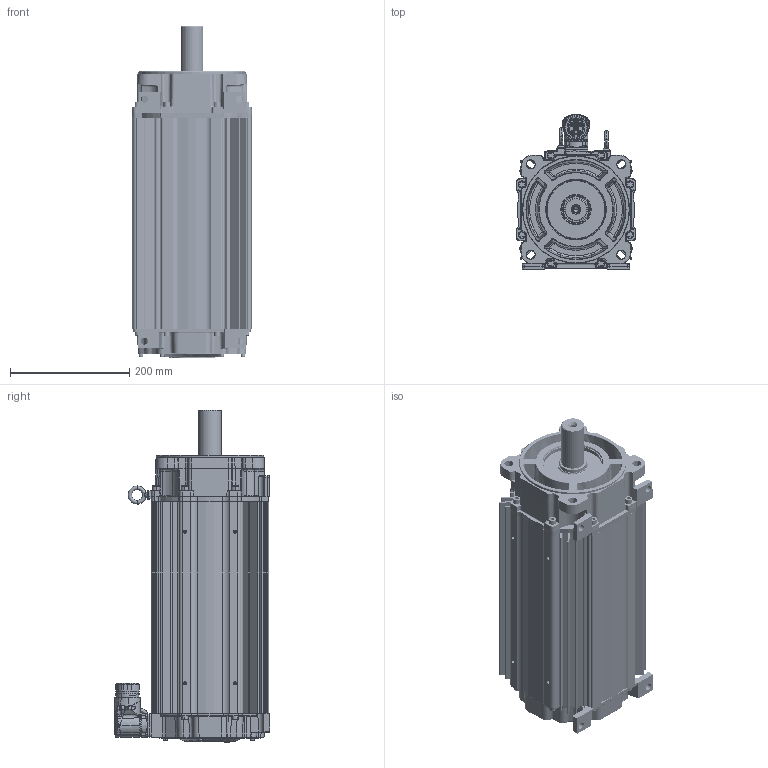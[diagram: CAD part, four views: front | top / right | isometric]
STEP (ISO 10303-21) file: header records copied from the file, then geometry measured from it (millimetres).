
FILE_DESCRIPTION((''),'2;1');
FILE_NAME('10001410891-Q_ASM','2020-01-15T13:56:42',('VThimma'),('Rockwell Automation'),'CREO PARAMETRIC BY PTC INC, 2017380','CREO PARAMETRIC BY PTC INC, 2017380','');
FILE_SCHEMA(('CONFIG_CONTROL_DESIGN','SHAPE_APPEARANCE_LAYERS_GROUPS'));
Products named in the file (22): 10001371613; 10001238886_AF0; 10001298482_AF22; 10001284445_ASM; CH31X150; 10001406659_ASM; 10001336772_KEYLESS; 10001398824_ASM; 10001257630_AF307; 10001300098_AF279; 10001314835_ASM; 10001586886; 10000172464; 0002-5005; 10000801000; 10000801001; 10000801002_ASM; 221404-Q12; 10000569218; 10001290343; 10001609981; 10001410891-Q_ASM
Assembly tree (45 placements, depth 4):
  10001410891-Q_ASM
    10001406659_ASM
      10001371613
      10001284445_ASM
        10001238886_AF0
        10001298482_AF22
      CH31X150  x8
    10001398824_ASM
      10001336772_KEYLESS
    10001314835_ASM
      10001257630_AF307
      10001300098_AF279
    10001586886  x8
    10000172464
    0002-5005  x2
    10000801002_ASM
      10000801000
      10000801001
    221404-Q12  x10
    10000569218
    10001290343
    10001609981
Bounding box: 200.45 x 260.6 x 557.79 mm (x, y, z)
Surface area: 1317152.9 mm2 (no closed solid volume)
Topology: 0 solids, 50 shells, 4915 faces, 12152 edges, 7423 vertices
Faces by surface type: cylinder 1421, plane 1352, bspline 903, torus 604, cone 552, sphere 76, extrusion 7
Entity records: 217969 total; most frequent: CARTESIAN_POINT 68406, ORIENTED_EDGE 19206, DIRECTION 17704, PRESENTATION_STYLE_ASSIGNMENT 13468, STYLED_ITEM 13468, CURVE_STYLE 9616, EDGE_CURVE 9609, AXIS2_PLACEMENT_3D 7029
